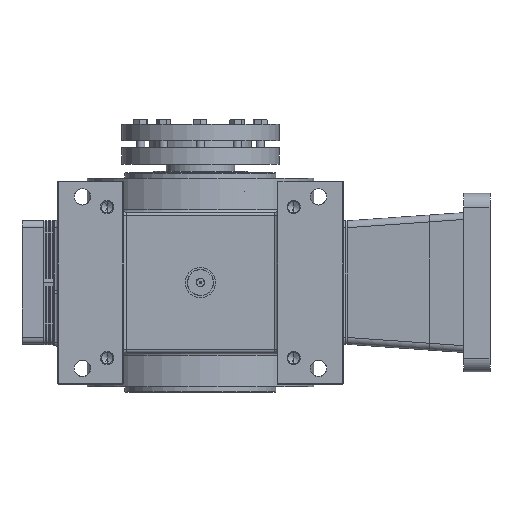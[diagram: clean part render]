
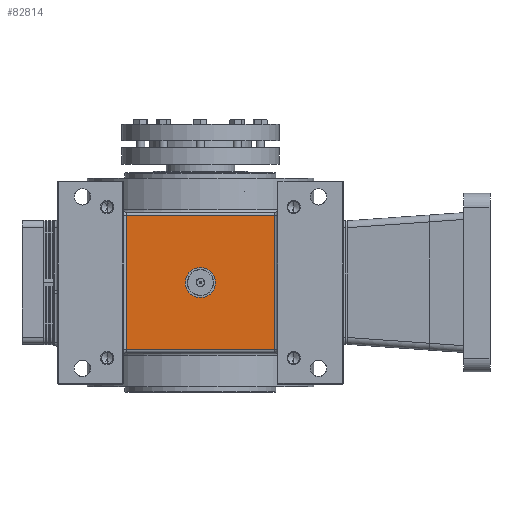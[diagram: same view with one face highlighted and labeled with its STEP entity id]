
A CAD part, front view. The second image highlights one B-rep face of the part: STEP entity #82814.
In plain terms, the highlighted planar face has unit normal (0, -1, 0).
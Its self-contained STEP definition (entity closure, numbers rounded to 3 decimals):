
#563 = EDGE_CURVE ( 'NONE', #6498, #31940, #40058, .T. ) ;
#2850 = FACE_BOUND ( 'NONE', #85616, .T. ) ;
#3506 = CIRCLE ( 'NONE', #74030, 11. ) ;
#5059 = AXIS2_PLACEMENT_3D ( 'NONE', #34329, #62426, #33413 ) ;
#5486 = ORIENTED_EDGE ( 'NONE', *, *, #46416, .F. ) ;
#5556 = DIRECTION ( 'NONE',  ( 1., 0., 0. ) ) ;
#6498 = VERTEX_POINT ( 'NONE', #64257 ) ;
#12401 = CIRCLE ( 'NONE', #5059, 11. ) ;
#14748 = CARTESIAN_POINT ( 'NONE',  ( 54., -112., -49. ) ) ;
#19157 = CARTESIAN_POINT ( 'NONE',  ( 54., -112., -76. ) ) ;
#19330 = ORIENTED_EDGE ( 'NONE', *, *, #84875, .F. ) ;
#20529 = CARTESIAN_POINT ( 'NONE',  ( 54., -112., 49. ) ) ;
#22536 = VECTOR ( 'NONE', #90231, 1000. ) ;
#23955 = DIRECTION ( 'NONE',  ( 0., 0., -1. ) ) ;
#24738 = ORIENTED_EDGE ( 'NONE', *, *, #563, .T. ) ;
#25976 = ORIENTED_EDGE ( 'NONE', *, *, #71515, .T. ) ;
#27735 = CARTESIAN_POINT ( 'NONE',  ( -54., -112., 49. ) ) ;
#29018 = CARTESIAN_POINT ( 'NONE',  ( 0., -112., 0. ) ) ;
#29834 = CARTESIAN_POINT ( 'NONE',  ( 0., -112., 11. ) ) ;
#30265 = VERTEX_POINT ( 'NONE', #27735 ) ;
#31940 = VERTEX_POINT ( 'NONE', #14748 ) ;
#32008 = EDGE_LOOP ( 'NONE', ( #80608, #52738, #24738, #25976 ) ) ;
#33154 = CARTESIAN_POINT ( 'NONE',  ( 0., -112., -11. ) ) ;
#33413 = DIRECTION ( 'NONE',  ( 0., 0., -1. ) ) ;
#34329 = CARTESIAN_POINT ( 'NONE',  ( 0., -112., 0. ) ) ;
#36459 = PLANE ( 'NONE',  #78146 ) ;
#40058 = LINE ( 'NONE', #55240, #64528 ) ;
#42384 = DIRECTION ( 'NONE',  ( 0., 0., -1. ) ) ;
#43744 = VECTOR ( 'NONE', #23955, 1000. ) ;
#45157 = DIRECTION ( 'NONE',  ( 0., 0., 1. ) ) ;
#46416 = EDGE_CURVE ( 'NONE', #57657, #76430, #3506, .T. ) ;
#47269 = DIRECTION ( 'NONE',  ( 0., 0., 1. ) ) ;
#52075 = DIRECTION ( 'NONE',  ( 0., 1., 0. ) ) ;
#52738 = ORIENTED_EDGE ( 'NONE', *, *, #75315, .T. ) ;
#55084 = LINE ( 'NONE', #19157, #76736 ) ;
#55240 = CARTESIAN_POINT ( 'NONE',  ( 56., -112., -49. ) ) ;
#57657 = VERTEX_POINT ( 'NONE', #29834 ) ;
#58952 = LINE ( 'NONE', #87018, #43744 ) ;
#58981 = FACE_OUTER_BOUND ( 'NONE', #32008, .T. ) ;
#62426 = DIRECTION ( 'NONE',  ( 0., -1., 0. ) ) ;
#64257 = CARTESIAN_POINT ( 'NONE',  ( -54., -112., -49. ) ) ;
#64528 = VECTOR ( 'NONE', #5556, 1000. ) ;
#68633 = CARTESIAN_POINT ( 'NONE',  ( -56., -112., 49. ) ) ;
#71515 = EDGE_CURVE ( 'NONE', #31940, #72652, #55084, .T. ) ;
#72652 = VERTEX_POINT ( 'NONE', #20529 ) ;
#74030 = AXIS2_PLACEMENT_3D ( 'NONE', #29018, #76474, #42384 ) ;
#75315 = EDGE_CURVE ( 'NONE', #30265, #6498, #58952, .T. ) ;
#76430 = VERTEX_POINT ( 'NONE', #33154 ) ;
#76474 = DIRECTION ( 'NONE',  ( 0., -1., 0. ) ) ;
#76736 = VECTOR ( 'NONE', #47269, 1000. ) ;
#78146 = AXIS2_PLACEMENT_3D ( 'NONE', #87047, #52075, #45157 ) ;
#80608 = ORIENTED_EDGE ( 'NONE', *, *, #84652, .T. ) ;
#82814 = ADVANCED_FACE ( 'NONE', ( #2850, #58981 ), #36459, .F. ) ;
#84652 = EDGE_CURVE ( 'NONE', #72652, #30265, #88886, .T. ) ;
#84875 = EDGE_CURVE ( 'NONE', #76430, #57657, #12401, .T. ) ;
#85616 = EDGE_LOOP ( 'NONE', ( #19330, #5486 ) ) ;
#87018 = CARTESIAN_POINT ( 'NONE',  ( -54., -112., -51. ) ) ;
#87047 = CARTESIAN_POINT ( 'NONE',  ( -56., -112., -76. ) ) ;
#88886 = LINE ( 'NONE', #68633, #22536 ) ;
#90231 = DIRECTION ( 'NONE',  ( -1., 0., 0. ) ) ;
